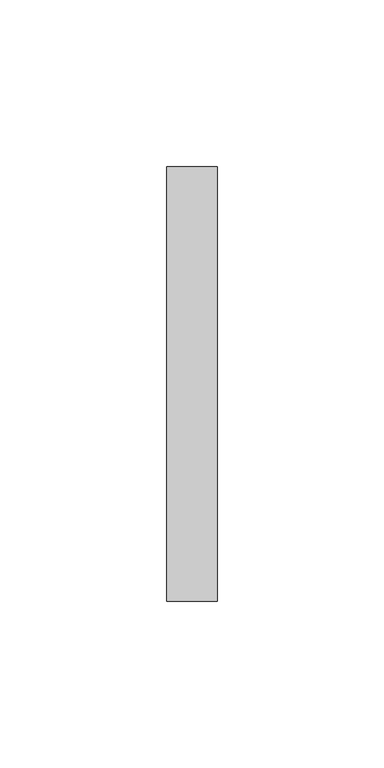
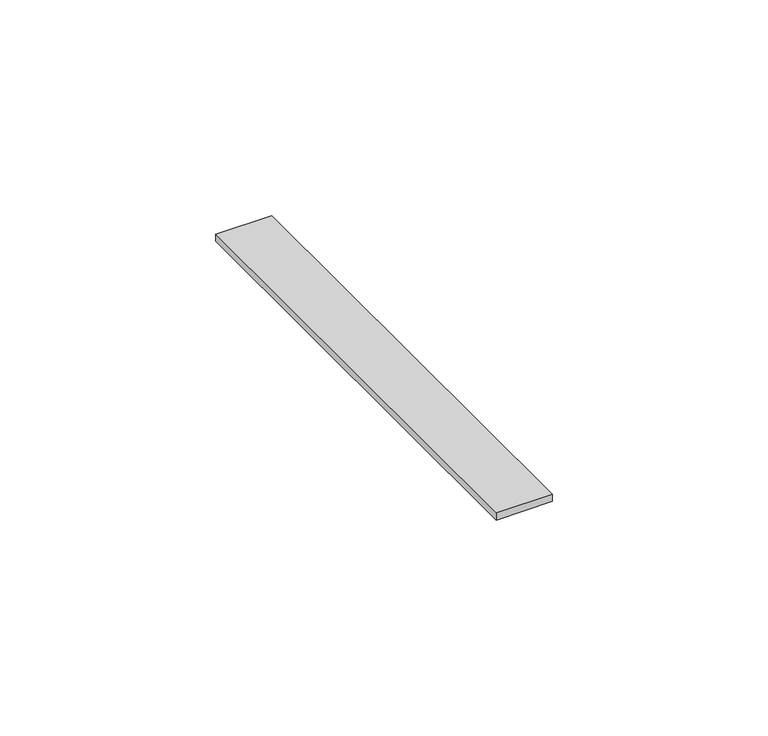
"""IFC4 building model written with IfcOpenShell, lengths in millimetres: duct fitting geometry, Накладка на стык - для крышек - для кабель-канала DLP - белый : 130мм."""

from ifc_helpers import new_model, si_unit, origin, origin_with_axes, place, context, project, spatial, polyline, outline, extrude, source, transform, mapped, element, save


def duct_fitting_ae1ddc4c(model_context):
    return source(origin(), model_context, "Body", "SweptSolid", [
        extrude(outline(polyline([(7.5, 65.0), (7.5, -65.0), (-7.5, -65.0), (-7.5, 65.0), (7.5, 65.0)])), origin_with_axes(), (0.0, 0.0, 1.0), 2.0),
    ])


if __name__ == "__main__":
    model = new_model("IFC4")
    model_context = context("Model", 3, world=origin())
    ifc_project = project(units=[si_unit("LENGTHUNIT", "METRE", prefix="MILLI")], contexts=[model_context])
    site = spatial("IfcSite", under=ifc_project)
    building = spatial("IfcBuilding", under=site)
    placement = place(None, origin())
    duct_fitting_shape = duct_fitting_ae1ddc4c(model_context)
    element("IfcDuctFitting", 1, ObjectType="Накладка на стык - для крышек - для кабель-канала DLP - белый : 130мм", at=placement, inside=building, context=model_context, shape_type="MappedRepresentation", body=[
        mapped(duct_fitting_shape, transform((0.0, 0.0, 0.0), x_axis=(1.0, 0.0, 0.0), y_axis=(0.0, 1.0, 0.0), z_axis=(0.0, 0.0, 1.0))),
    ])
    save(model, "model.ifc")
